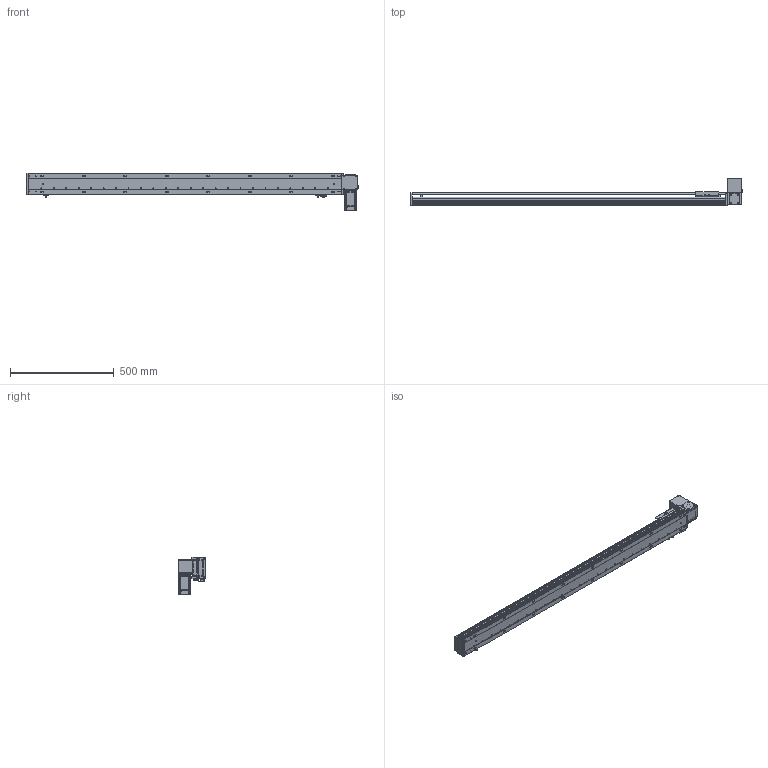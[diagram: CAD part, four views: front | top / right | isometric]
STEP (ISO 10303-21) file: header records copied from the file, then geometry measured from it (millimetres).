
FILE_DESCRIPTION (( 'STEP AP203' ), '1' );
FILE_NAME ('RY100-T-300-UL.SLDASM_1300.step', '2024-04-25T08:40:25', ( '盈信电脑' ), ( '东莞市道滘镇水果街19号' ), 'SwSTEP 2.0', 'SolidWorks 2016', '' );
FILE_SCHEMA (( 'CONFIG_CONTROL_DESIGN' ));
Length unit declared in the file: millimetre
Products named in the file (15): RY100綴裔啣; RY80-T肮祭謫奻殏俋欶; RY100-T粣創揤踡裔; RY100-T左右折电机安装板; RY100-T-300-RK倰第奻裔_1300; 覜茼ん672; RY100-T翋肮祭謫裔啣2; RY100-T-300-UL.SLDASM_1300; RY100-T翋肮祭謫裔啣; RY100俋离覜茼え; 滅袉蝶18-10; RY100-T-300-RK倰第菁釱_1300; 1; RY100-T肮祭謫翋盓傅釱; RY100-T肮祭謫臏賑輸
Assembly tree (17 placements, depth 2):
  RY100-T-300-UL.SLDASM_1300
    RY100-T-300-RK倰第菁釱_1300
    RY100-T-300-RK倰第奻裔_1300
    RY100-T肮祭謫臏賑輸
    RY100綴裔啣
    覜茼ん672  x3
    RY100俋离覜茼え
    RY100-T肮祭謫翋盓傅釱
    滅袉蝶18-10  x2
    RY100-T翋肮祭謫裔啣2
    RY100-T翋肮祭謫裔啣
    1
    RY100-T左右折电机安装板
    RY80-T肮祭謫奻殏俋欶
    RY100-T粣創揤踡裔
Bounding box: 1600 x 130.5 x 182.5 mm (x, y, z)
Volume: 3106451.1 mm3; surface area: 1294038.7 mm2
Topology: 17 solids, 17 shells, 2233 faces, 6216 edges, 4038 vertices
Faces by surface type: plane 1207, cylinder 815, cone 133, bspline 78
Entity records: 72090 total; most frequent: CARTESIAN_POINT 17387, ORIENTED_EDGE 11264, DIRECTION 10734, EDGE_CURVE 5632, VERTEX_POINT 3706, VECTOR 3626, LINE 3626, AXIS2_PLACEMENT_3D 3554
